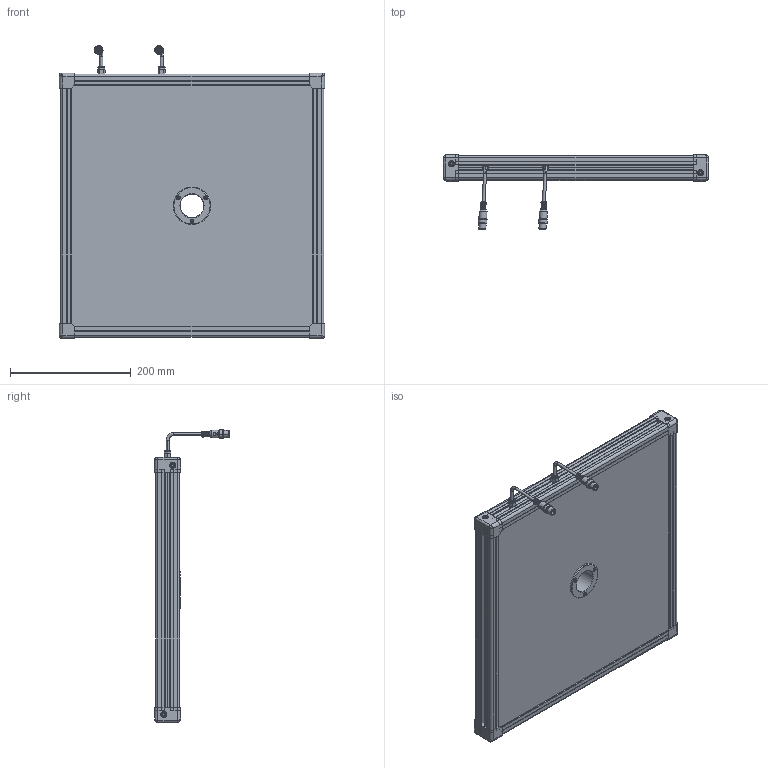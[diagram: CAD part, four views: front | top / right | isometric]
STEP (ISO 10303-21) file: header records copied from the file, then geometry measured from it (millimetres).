
FILE_DESCRIPTION (( 'STEP AP214' ), '1' );
FILE_NAME ('FD400x400.STEP', '2014-01-07T10:30:22', ( 'Effilux' ), ( '' ), 'SwSTEP 2.0', 'SolidWorks 2010', '' );
FILE_SCHEMA (( 'AUTOMOTIVE_DESIGN' ));
Length unit declared in the file: millimetre
Products named in the file (5): fd400x400; plaque + passage; angle + vis; cable+presse étoupe; FD400x400
Assembly tree (8 placements, depth 2):
  FD400x400
    angle + vis  x4
    fd400x400
    cable+presse étoupe  x2
    plaque + passage
Bounding box: 439.5 x 124.14 x 485.25 mm (x, y, z)
Volume: 6573981.6 mm3; surface area: 548080.5 mm2
Topology: 1 solids, 47 shells, 976 faces, 2578 edges, 1686 vertices
Faces by surface type: plane 472, cylinder 270, bspline 136, cone 74, torus 24
Entity records: 22087 total; most frequent: CARTESIAN_POINT 4047, DIRECTION 2927, ORIENTED_EDGE 2827, EDGE_CURVE 1473, AXIS2_PLACEMENT_3D 996, VERTEX_POINT 966, VECTOR 935, LINE 935
